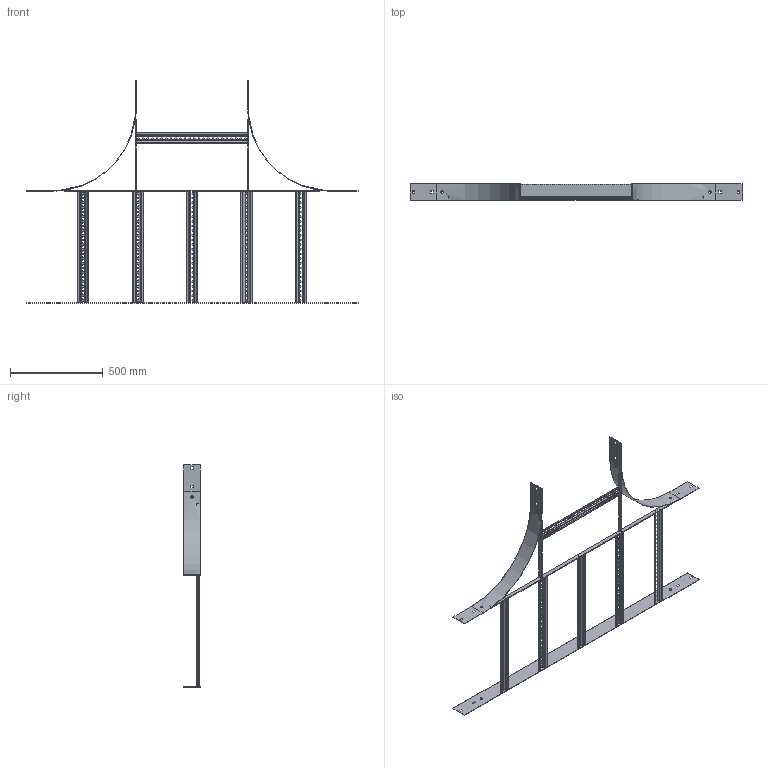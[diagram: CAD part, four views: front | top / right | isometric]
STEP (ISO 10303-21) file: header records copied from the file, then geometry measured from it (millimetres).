
FILE_DESCRIPTION (( 'STEP AP203' ), '1' );
FILE_NAME ('N2 T 6004.STEP', '2020-04-27T03:32:02', ( '' ), ( '' ), 'SwSTEP 2.0', 'SolidWorks 2020', '' );
FILE_SCHEMA (( 'CONFIG_CONTROL_DESIGN' ));
Length unit declared in the file: millimetre
Products named in the file (6): Ladder Rung_Ladder Rung -  600mm; N2 RADIUS PLATE_N1-450 IR; N2 Back Plate_1800; N2 T 6004; Ladder Tee 20x5 Flat Bar_378; Ladder Tee 20x5 Flat Bar_1366
Assembly tree (12 placements, depth 2):
  N2 T 6004
    N2 Back Plate_1800
    Ladder Rung_Ladder Rung -  600mm  x6
    Ladder Tee 20x5 Flat Bar_1366
    N2 RADIUS PLATE_N1-450 IR  x2
    Ladder Tee 20x5 Flat Bar_378  x2
Bounding box: 1785 x 87 x 1194.5 mm (x, y, z)
Volume: 1246205.1 mm3; surface area: 1280585.1 mm2
Topology: 12 solids, 12 shells, 940 faces, 2540 edges, 1624 vertices
Faces by surface type: plane 876, cylinder 64
Entity records: 7692 total; most frequent: CARTESIAN_POINT 1485, ORIENTED_EDGE 1120, DIRECTION 1030, EDGE_CURVE 560, LINE 524, VECTOR 524, VERTEX_POINT 360, EDGE_LOOP 280
